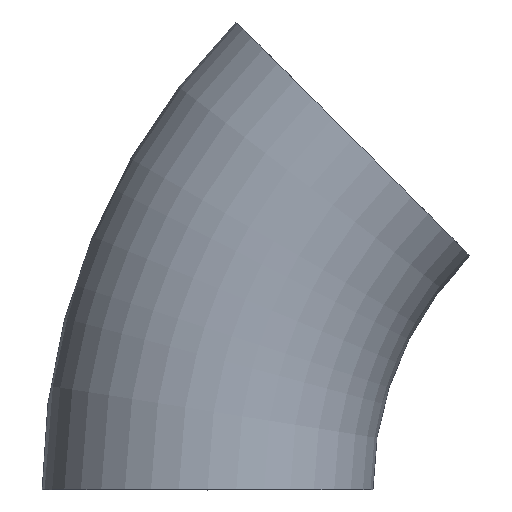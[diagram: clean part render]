
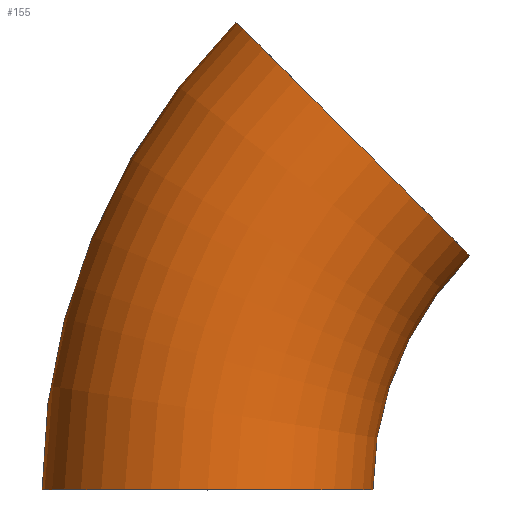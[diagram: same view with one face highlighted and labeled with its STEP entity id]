
A CAD part, top view. The second image highlights one B-rep face of the part: STEP entity #155.
In plain terms, the highlighted toroidal (fillet/blend) face has major radius 95.25 mm and minor radius 31.75 mm.
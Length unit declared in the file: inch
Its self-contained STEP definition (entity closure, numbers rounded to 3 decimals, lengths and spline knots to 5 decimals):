
#6 = ORIENTED_EDGE ( 'NONE', *, *, #233, .F. ) ;
#9 = VERTEX_POINT ( 'NONE', #249 ) ;
#11 = VERTEX_POINT ( 'NONE', #203 ) ;
#21 = CIRCLE ( 'NONE', #194, 2.5 ) ;
#43 = CARTESIAN_POINT ( 'NONE',  ( -2.65165, 2.65165, 0. ) ) ;
#50 = VERTEX_POINT ( 'NONE', #58 ) ;
#52 = ORIENTED_EDGE ( 'NONE', *, *, #138, .F. ) ;
#53 = DIRECTION ( 'NONE',  ( 0.707, 0.707, 0. ) ) ;
#56 = CARTESIAN_POINT ( 'NONE',  ( -5., 0., 0. ) ) ;
#57 = DIRECTION ( 'NONE',  ( 0., 0., 1. ) ) ;
#58 = CARTESIAN_POINT ( 'NONE',  ( -2.5, 0., 0. ) ) ;
#63 = FACE_OUTER_BOUND ( 'NONE', #244, .T. ) ;
#67 = CARTESIAN_POINT ( 'NONE',  ( 0., 0., 0. ) ) ;
#70 = DIRECTION ( 'NONE',  ( 0., 0., 1. ) ) ;
#71 = TOROIDAL_SURFACE ( 'NONE', #184, 3.75, 1.25 ) ;
#76 = DIRECTION ( 'NONE',  ( 1., 0., 0. ) ) ;
#80 = DIRECTION ( 'NONE',  ( 0., 1., 0. ) ) ;
#88 = VERTEX_POINT ( 'NONE', #56 ) ;
#89 = CARTESIAN_POINT ( 'NONE',  ( -3.75, 0., 0. ) ) ;
#90 = DIRECTION ( 'NONE',  ( 0., 0., 1. ) ) ;
#115 = CARTESIAN_POINT ( 'NONE',  ( 0., 0., 0. ) ) ;
#126 = DIRECTION ( 'NONE',  ( 0., 0., 1. ) ) ;
#138 = EDGE_CURVE ( 'NONE', #9, #50, #21, .T. ) ;
#142 = DIRECTION ( 'NONE',  ( 0., 0., 1. ) ) ;
#145 = DIRECTION ( 'NONE',  ( 1., 0., 0. ) ) ;
#149 = CARTESIAN_POINT ( 'NONE',  ( 0., 0., 0. ) ) ;
#150 = AXIS2_PLACEMENT_3D ( 'NONE', #89, #80, #90 ) ;
#152 = AXIS2_PLACEMENT_3D ( 'NONE', #67, #70, #76 ) ;
#153 = AXIS2_PLACEMENT_3D ( 'NONE', #43, #53, #57 ) ;
#155 = ADVANCED_FACE ( 'NONE', ( #63 ), #71, .T. ) ;
#184 = AXIS2_PLACEMENT_3D ( 'NONE', #149, #126, #228 ) ;
#194 = AXIS2_PLACEMENT_3D ( 'NONE', #115, #142, #145 ) ;
#195 = CIRCLE ( 'NONE', #150, 1.25 ) ;
#203 = CARTESIAN_POINT ( 'NONE',  ( -3.53553, 3.53553, 0. ) ) ;
#207 = CIRCLE ( 'NONE', #153, 1.25 ) ;
#211 = CIRCLE ( 'NONE', #152, 5. ) ;
#222 = ORIENTED_EDGE ( 'NONE', *, *, #246, .T. ) ;
#228 = DIRECTION ( 'NONE',  ( 1., 0., 0. ) ) ;
#233 = EDGE_CURVE ( 'NONE', #11, #9, #207, .T. ) ;
#244 = EDGE_LOOP ( 'NONE', ( #6, #256, #222, #52 ) ) ;
#245 = EDGE_CURVE ( 'NONE', #11, #88, #211, .T. ) ;
#246 = EDGE_CURVE ( 'NONE', #88, #50, #195, .T. ) ;
#249 = CARTESIAN_POINT ( 'NONE',  ( -1.76777, 1.76777, 0. ) ) ;
#256 = ORIENTED_EDGE ( 'NONE', *, *, #245, .T. ) ;
